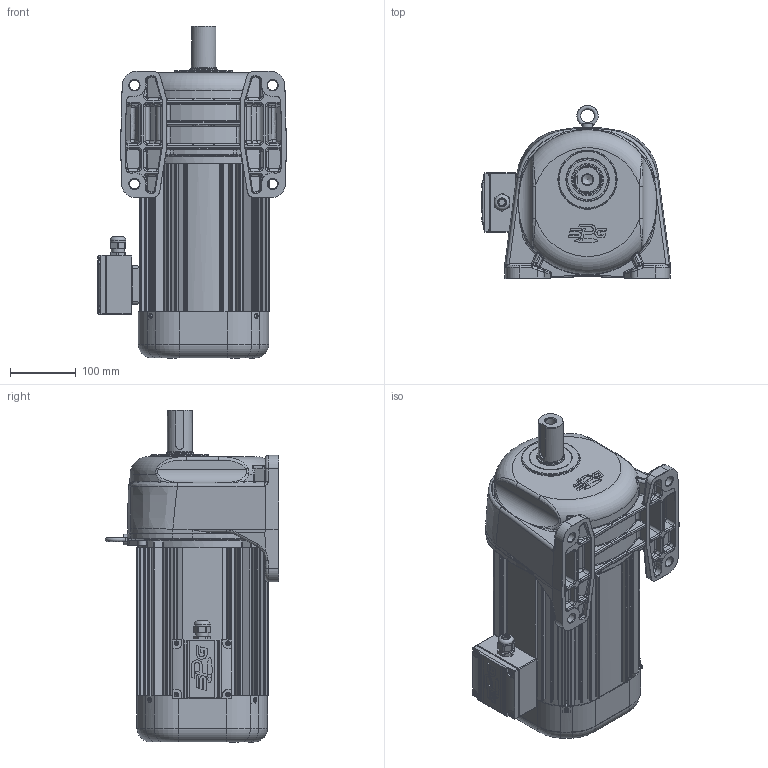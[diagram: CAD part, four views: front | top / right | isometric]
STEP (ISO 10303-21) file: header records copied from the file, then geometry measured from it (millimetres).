
FILE_DESCRIPTION(/* description */ (''),/* implementation_level */ '2;1');
FILE_NAME(/* name */ 'PAL40_2.2kW_3D.stp',/* time_stamp */ '2026-03-18T18:02:56+09:00',/* author */ ('jaebok'),/* organization */ (''),/* preprocessor_version */ 'ST-DEVELOPER v20.1',/* originating_system */ 'Autodesk Inventor 2026',/* authorisation */ '');
FILE_SCHEMA (('AUTOMOTIVE_DESIGN { 1 0 10303 214 3 1 1 }'));
Length unit declared in the file: millimetre
Products named in the file (1): 부품1
Bounding box: 287 x 263.22 x 504.5 mm (x, y, z)
Volume: 4302835.3 mm3; surface area: 1229953.8 mm2
Topology: 2 solids, 33 shells, 3951 faces, 9813 edges, 5822 vertices
Faces by surface type: plane 1112, cylinder 1083, bspline 1076, torus 366, cone 226, sphere 88
Full cylindrical faces by diameter (mm): 2 x1, 3.25 x1, 3.5 x4, 3.6 x4, 4 x21, 5 x13, 6 x5, 6.647 x5, 6.8 x4, 7 x9, 8 x9, 8.8 x4, 9 x4, 10 x1, 12 x4, 12.5 x1, 13 x4, 15 x5, 16 x1, 20 x2, 20.6 x1, 21 x1, 23.5 x1, 23.6 x1, 25 x1, 28 x1, 31 x1, 36 x1, 38 x1, 39.6 x1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
Entity records: 157334 total; most frequent: CARTESIAN_POINT 66066, ORIENTED_EDGE 19238, DIRECTION 17038, EDGE_CURVE 9619, AXIS2_PLACEMENT_3D 6945, VERTEX_POINT 5821, EDGE_LOOP 4179, FACE_OUTER_BOUND 3951
